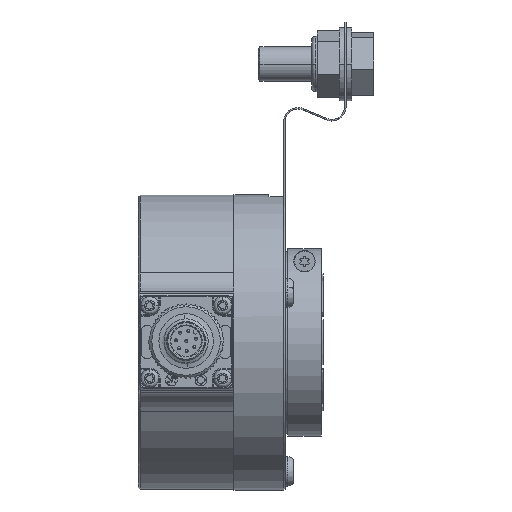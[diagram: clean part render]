
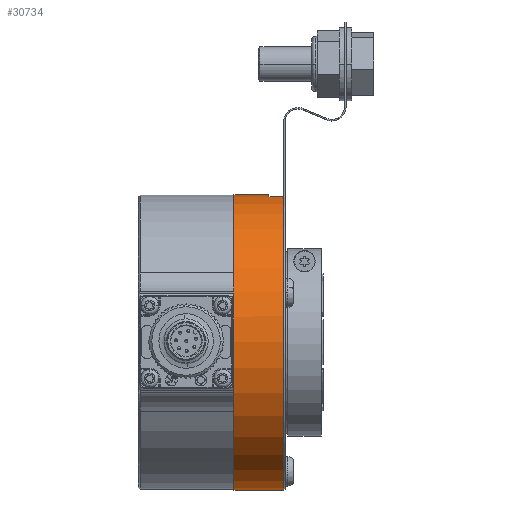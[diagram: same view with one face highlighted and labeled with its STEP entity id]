
A CAD part, top view. The second image highlights one B-rep face of the part: STEP entity #30734.
In plain terms, the highlighted cylindrical face has radius 40.075 mm (diameter 80.15 mm), a partial arc.
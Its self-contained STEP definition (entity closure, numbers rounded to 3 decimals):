
#1586 = CARTESIAN_POINT ( 'NONE',  ( 13.5, -40.075, 0. ) ) ;
#2321 = DIRECTION ( 'NONE',  ( -1., 0., 0. ) ) ;
#4996 = CARTESIAN_POINT ( 'NONE',  ( 0., 0., 0. ) ) ;
#5204 = VECTOR ( 'NONE', #32631, 1000. ) ;
#6487 = VERTEX_POINT ( 'NONE', #42914 ) ;
#6854 = VERTEX_POINT ( 'NONE', #51626 ) ;
#8470 = LINE ( 'NONE', #25204, #5204 ) ;
#9459 = FACE_OUTER_BOUND ( 'NONE', #37679, .T. ) ;
#10014 = CARTESIAN_POINT ( 'NONE',  ( -12.775, 0., 0. ) ) ;
#11495 = EDGE_CURVE ( 'NONE', #52097, #6854, #36408, .T. ) ;
#12264 = DIRECTION ( 'NONE',  ( -1., 0., 0. ) ) ;
#14216 = EDGE_CURVE ( 'NONE', #47407, #30849, #18960, .T. ) ;
#17374 = CARTESIAN_POINT ( 'NONE',  ( 9.5, 39.468, 6.95 ) ) ;
#18960 = LINE ( 'NONE', #48611, #36683 ) ;
#19061 = DIRECTION ( 'NONE',  ( 0., 1., 0. ) ) ;
#19946 = AXIS2_PLACEMENT_3D ( 'NONE', #4996, #51915, #51641 ) ;
#20303 = ORIENTED_EDGE ( 'NONE', *, *, #48576, .T. ) ;
#21783 = VERTEX_POINT ( 'NONE', #17374 ) ;
#22166 = CARTESIAN_POINT ( 'NONE',  ( 9.5, 40.075, 0. ) ) ;
#22360 = AXIS2_PLACEMENT_3D ( 'NONE', #10014, #46789, #38026 ) ;
#25072 = ORIENTED_EDGE ( 'NONE', *, *, #33075, .F. ) ;
#25204 = CARTESIAN_POINT ( 'NONE',  ( -12.775, 39.468, 6.95 ) ) ;
#25771 = ORIENTED_EDGE ( 'NONE', *, *, #36508, .F. ) ;
#28471 = DIRECTION ( 'NONE',  ( 0., 1., 0. ) ) ;
#28667 = CIRCLE ( 'NONE', #19946, 40.075 ) ;
#30734 = ADVANCED_FACE ( 'NONE', ( #9459 ), #47338, .T. ) ;
#30849 = VERTEX_POINT ( 'NONE', #31960 ) ;
#31925 = VECTOR ( 'NONE', #52986, 1000. ) ;
#31960 = CARTESIAN_POINT ( 'NONE',  ( 0., 40.075, 0. ) ) ;
#32179 = AXIS2_PLACEMENT_3D ( 'NONE', #53963, #12264, #28471 ) ;
#32631 = DIRECTION ( 'NONE',  ( -1., 0., 0. ) ) ;
#33075 = EDGE_CURVE ( 'NONE', #6487, #30849, #28667, .T. ) ;
#35703 = CIRCLE ( 'NONE', #32179, 40.075 ) ;
#35715 = LINE ( 'NONE', #43684, #31925 ) ;
#36408 = CIRCLE ( 'NONE', #46024, 40.075 ) ;
#36508 = EDGE_CURVE ( 'NONE', #52097, #6487, #35715, .T. ) ;
#36683 = VECTOR ( 'NONE', #44487, 1000. ) ;
#37329 = ORIENTED_EDGE ( 'NONE', *, *, #41653, .T. ) ;
#37679 = EDGE_LOOP ( 'NONE', ( #25771, #41660, #20303, #37329, #49970, #25072 ) ) ;
#38026 = DIRECTION ( 'NONE',  ( 0., 1., 0. ) ) ;
#41653 = EDGE_CURVE ( 'NONE', #21783, #47407, #35703, .T. ) ;
#41660 = ORIENTED_EDGE ( 'NONE', *, *, #11495, .T. ) ;
#42914 = CARTESIAN_POINT ( 'NONE',  ( 0., -40.075, 0. ) ) ;
#43684 = CARTESIAN_POINT ( 'NONE',  ( -12.775, -40.075, 0. ) ) ;
#43780 = CARTESIAN_POINT ( 'NONE',  ( 13.5, 0., 0. ) ) ;
#44487 = DIRECTION ( 'NONE',  ( -1., 0., 0. ) ) ;
#46024 = AXIS2_PLACEMENT_3D ( 'NONE', #43780, #2321, #19061 ) ;
#46789 = DIRECTION ( 'NONE',  ( -1., 0., 0. ) ) ;
#47338 = CYLINDRICAL_SURFACE ( 'NONE', #22360, 40.075 ) ;
#47407 = VERTEX_POINT ( 'NONE', #22166 ) ;
#48576 = EDGE_CURVE ( 'NONE', #6854, #21783, #8470, .T. ) ;
#48611 = CARTESIAN_POINT ( 'NONE',  ( -12.775, 40.075, 0. ) ) ;
#49970 = ORIENTED_EDGE ( 'NONE', *, *, #14216, .T. ) ;
#51626 = CARTESIAN_POINT ( 'NONE',  ( 13.5, 39.468, 6.95 ) ) ;
#51641 = DIRECTION ( 'NONE',  ( 0., 1., 0. ) ) ;
#51915 = DIRECTION ( 'NONE',  ( -1., 0., 0. ) ) ;
#52097 = VERTEX_POINT ( 'NONE', #1586 ) ;
#52986 = DIRECTION ( 'NONE',  ( -1., 0., 0. ) ) ;
#53963 = CARTESIAN_POINT ( 'NONE',  ( 9.5, 0., 0. ) ) ;
